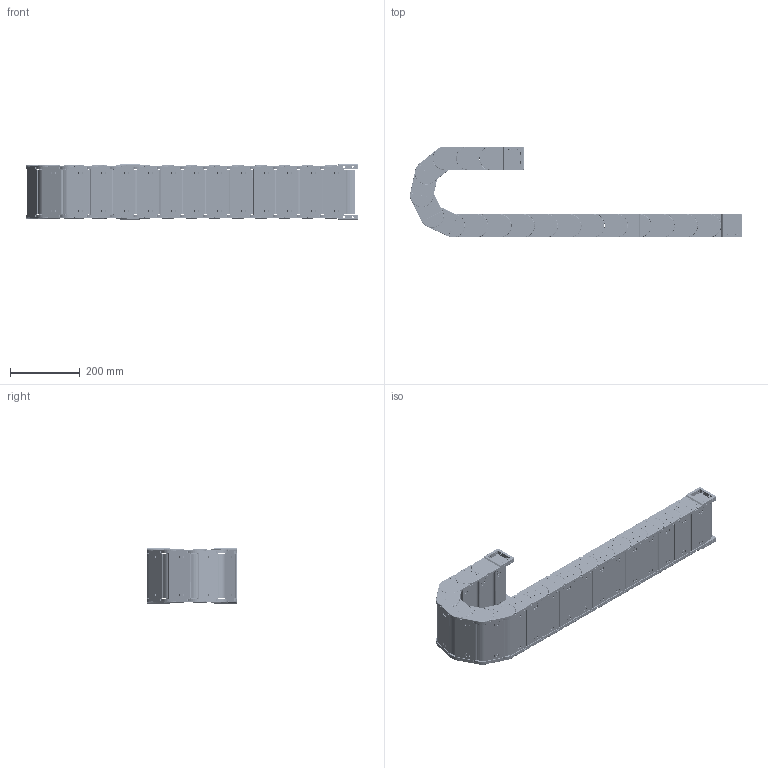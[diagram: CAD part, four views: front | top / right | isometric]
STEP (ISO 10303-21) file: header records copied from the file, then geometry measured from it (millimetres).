
FILE_DESCRIPTION (( 'STEP AP214' ), '1' );
FILE_NAME ('J45F.1.130S-3D賦凳芞.STEP', '2019-01-09T08:33:41', ( 'Sky123.Org' ), ( 'Sky123.Org' ), 'SwSTEP 2.0', 'SolidWorks 2017', '' );
FILE_SCHEMA (( 'AUTOMOTIVE_DESIGN' ));
Length unit declared in the file: millimetre
Products named in the file (11): 5-N45X100-源諉俋 - 萵掛; 45-N源諉芛俋; 5-N45X100-源諉囀 - 萵掛; 45-臏簽1; 45-N源諉芛囀; N45FX75-等誹1 - 萵掛; H35X75-FBP-W猾敕え; H35-J45-FBP-N猾敕え; 45-崝Ч翋极2; 45-崝Ч翋极1; J45F.1.130S-3D賦凳芞
Assembly tree (55 placements, depth 3):
  J45F.1.130S-3D賦凳芞
    N45FX75-等誹1 - 萵掛  x17
      45-崝Ч翋极1
      45-崝Ч翋极2
      H35-J45-FBP-N猾敕え
      H35X75-FBP-W猾敕え
    5-N45X100-源諉囀 - 萵掛
      45-N源諉芛囀  x2
      45-臏簽1  x12
      H35-J45-FBP-N猾敕え
      H35X75-FBP-W猾敕え
    5-N45X100-源諉俋 - 萵掛
      45-N源諉芛俋  x2
      45-臏簽1  x12
      H35-J45-FBP-N猾敕え
      H35X75-FBP-W猾敕え
Bounding box: 954.91 x 261 x 159 mm (x, y, z)
Volume: 3320558.4 mm3; surface area: 1873309.1 mm2
Topology: 100 solids, 100 shells, 23329 faces, 63191 edges, 39614 vertices
Faces by surface type: plane 12592, bspline 5004, cylinder 4977, torus 748, sphere 8
Entity records: 55392 total; most frequent: CARTESIAN_POINT 19957, ORIENTED_EDGE 7662, DIRECTION 6605, EDGE_CURVE 3831, LINE 2491, VECTOR 2491, VERTEX_POINT 2452, AXIS2_PLACEMENT_3D 2057
